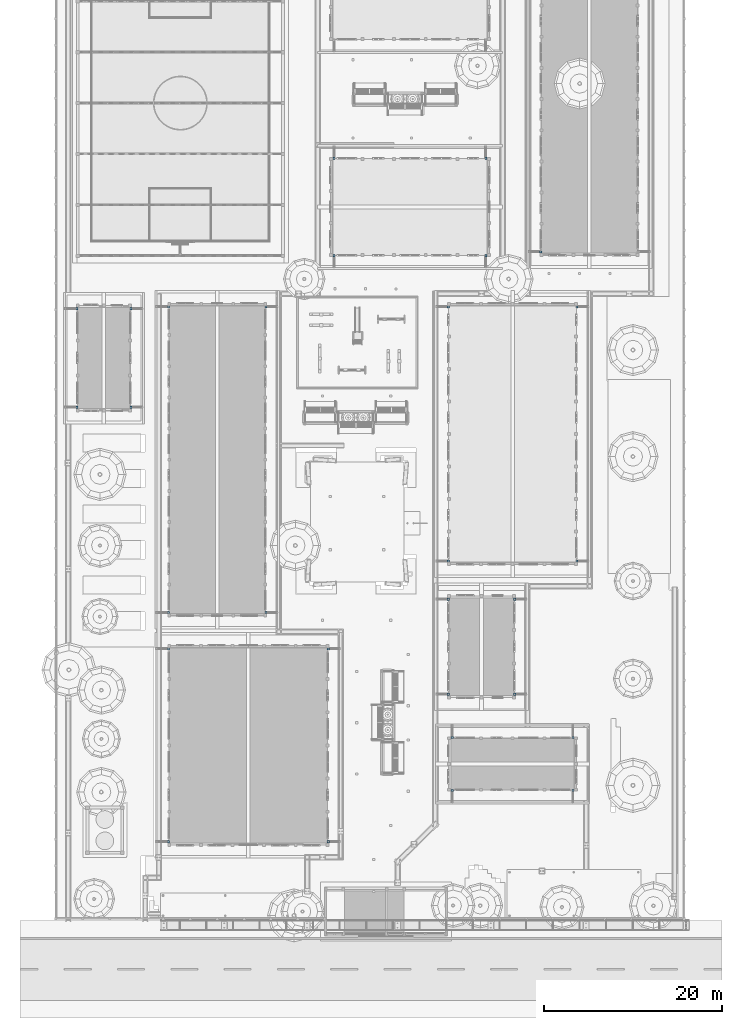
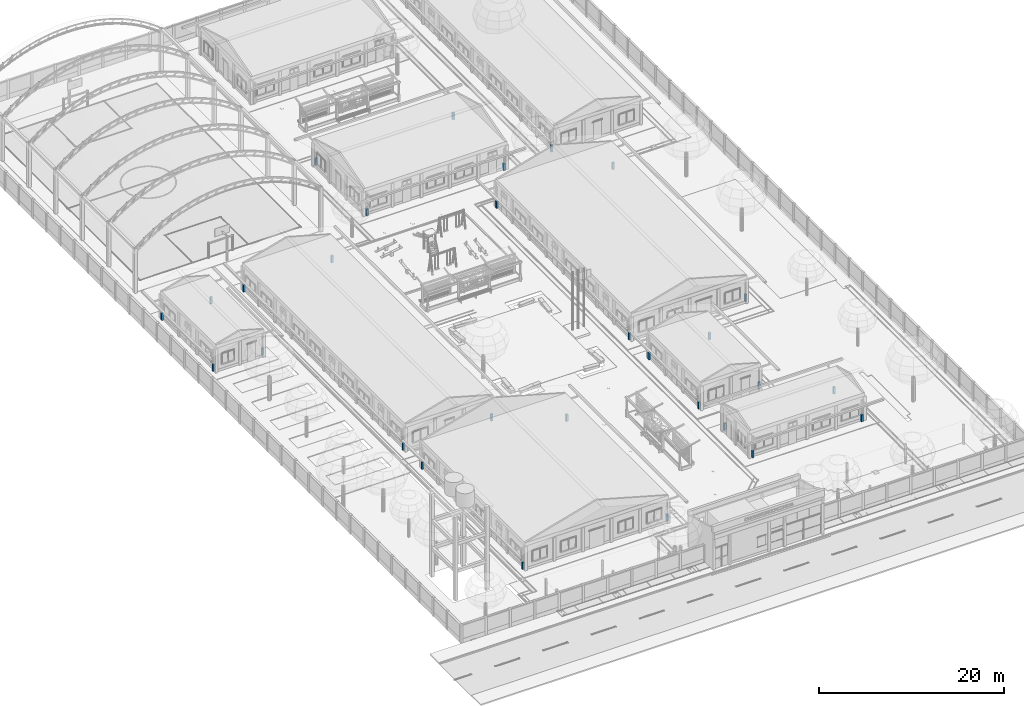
# One storey, part 13 of 177: 29 columns.
"""IFC4 building model written with IfcOpenShell, lengths in metres."""

import ifcopenshell
import ifcopenshell.guid

model = None  # the IFC model being written
_history = None  # IfcOwnerHistory: only IFC2X3 demands one
_inside = {}  # id of a spatial element -> (the spatial element, [elements in it])
_under = {}  # id of a project, library or spatial element -> (it, [spatial elements below it])
_declared = {}  # id of a project -> (the project, [libraries it declares])
_typed = {}  # id of a type object -> (the type object, [elements of that type])
_made_of = {}  # id of a material, layer set ... -> (it, [elements and type objects made of it])


def new_model(schema):
    """Start an empty IFC model of exactly this schema.

    Asked for "IFC4X3", IfcOpenShell would pick the latest addendum, in which some entities
    have other attributes; the version numbers below select the first issue.
    IFC2X3 requires an IfcOwnerHistory on every rooted entity: one is made here for all.
    """
    global model, _history
    if schema == "IFC4X3":
        model = ifcopenshell.file(schema_version=(4, 3, 0, 0))
    else:
        model = ifcopenshell.file(schema=schema)
    _inside.clear()
    _under.clear()
    _declared.clear()
    _typed.clear()
    _made_of.clear()
    _history = None
    if model.schema == "IFC2X3":
        org = make("IfcOrganization", Name="unknown")
        user = make(
            "IfcPersonAndOrganization",
            ThePerson=make("IfcPerson", FamilyName="unknown"),
            TheOrganization=org,
        )
        app = make(
            "IfcApplication",
            ApplicationDeveloper=org,
            Version="unknown",
            ApplicationFullName="unknown",
            ApplicationIdentifier="unknown",
        )
        _history = make(
            "IfcOwnerHistory",
            OwningUser=user,
            OwningApplication=app,
            ChangeAction="ADDED",
            CreationDate=0,
        )
    return model


def make(cls, **values):
    """One entity of the class cls with the attributes given. An attribute that is None is left unset."""
    return model.create_entity(
        cls, **{name: value for name, value in values.items() if value is not None}
    )


def rooted(cls, **values):
    """An entity with a GlobalId (a new one), such as an element, a storey or a relation."""
    return make(cls, GlobalId=ifcopenshell.guid.new(), OwnerHistory=_history, **values)


def si_unit(unit_type, name, prefix=None):
    """IfcSIUnit, for example si_unit("LENGTHUNIT", "METRE", prefix="MILLI")."""
    return make("IfcSIUnit", UnitType=unit_type, Prefix=prefix, Name=name)


def assignment(units):
    """IfcUnitAssignment: the units of a project."""
    return None if units is None else make("IfcUnitAssignment", Units=units)


def point(xyz):
    """IfcCartesianPoint."""
    return None if xyz is None else make("IfcCartesianPoint", Coordinates=xyz)


def direction(xyz):
    """IfcDirection."""
    return None if xyz is None else make("IfcDirection", DirectionRatios=xyz)


def frame(location, z_axis=None, x_axis=None):
    """IfcAxis2Placement3D, a coordinate frame: its origin and axes. An axis left out is left unset."""
    return make(
        "IfcAxis2Placement3D",
        Location=point(location),
        Axis=direction(z_axis),
        RefDirection=direction(x_axis),
    )


def origin():
    """The frame at (0, 0, 0) with its axes left unset."""
    return frame((0.0, 0.0, 0.0))


def origin_with_axes():
    """The frame at (0, 0, 0) with the z axis (0, 0, 1) and the x axis (1, 0, 0) written out."""
    return frame((0.0, 0.0, 0.0), z_axis=(0.0, 0.0, 1.0), x_axis=(1.0, 0.0, 0.0))


def place(relative_to, where):
    """IfcLocalPlacement: puts the frame where relative to a parent placement (None: the world)."""
    return make(
        "IfcLocalPlacement", PlacementRelTo=relative_to, RelativePlacement=where
    )


def context(
    kind, dimensions, precision=None, world=None, true_north=None, identifier=None
):
    """IfcGeometricRepresentationContext, for example the 3D "Model" context."""
    return make(
        "IfcGeometricRepresentationContext",
        ContextIdentifier=identifier,
        ContextType=kind,
        CoordinateSpaceDimension=dimensions,
        Precision=precision,
        WorldCoordinateSystem=world,
        TrueNorth=true_north,
    )


def subcontext(parent, identifier, kind, view, scale=None):
    """IfcGeometricRepresentationSubContext, for example "Body" below "Model"."""
    return make(
        "IfcGeometricRepresentationSubContext",
        ContextIdentifier=identifier,
        ContextType=kind,
        ParentContext=parent,
        TargetScale=scale,
        TargetView=view,
    )


def project(units=None, contexts=None):
    """IfcProject with its units and contexts."""
    return rooted(
        "IfcProject",
        Name="project",
        RepresentationContexts=contexts,
        UnitsInContext=assignment(units),
    )


def spatial(cls, under=None, at=None, **own):
    """A site, building, storey or space (cls), placed at a placement, below another one or the project."""
    s = rooted(cls, ObjectPlacement=at, **own)
    if under is not None:
        _under.setdefault(under.id(), (under, []))[1].append(s)
    return s


def point_list(points):
    """IfcCartesianPointList2D or 3D."""
    cls = (
        "IfcCartesianPointList2D" if len(points[0]) == 2 else "IfcCartesianPointList3D"
    )
    return make(cls, CoordList=points)


def triangles(points, corners, closed=None, point_numbers=None):
    """IfcTriangulatedFaceSet: each triangle names its three corners, points numbered from 1."""
    return make(
        "IfcTriangulatedFaceSet",
        Coordinates=point_list(points),
        Closed=closed,
        CoordIndex=corners,
        PnIndex=point_numbers,
    )


def shape(context_of_items, identifier, shape_type, items):
    """IfcShapeRepresentation: the items that make up one representation, for example the "Body"."""
    return make(
        "IfcShapeRepresentation",
        ContextOfItems=context_of_items,
        RepresentationIdentifier=identifier,
        RepresentationType=shape_type,
        Items=items,
    )


def made_of(thing, what):
    """Note that an element or type object is made of a material, layer set ...; save() writes the relation."""
    if what is not None:
        _made_of.setdefault(what.id(), (what, []))[1].append(thing)
    return thing


def element(
    cls,
    number,
    at=None,
    inside=None,
    cuts=None,
    type_object=None,
    material=None,
    context=None,
    identifier="Body",
    shape_type=None,
    held_by="IfcProductDefinitionShape",
    body=None,
    shapes=None,
    **own,
):
    """One element of the class cls, such as IfcWall. Its Tag is "e" and its number.

    at: its placement. inside: the storey or other place that contains it. cuts: it is an
    opening in that element (IfcRelVoidsElement). A single representation is given by context,
    identifier, shape_type and body (its items); several are given by shapes. held_by: the class
    of the entity that holds the representations. save() writes the other relations.
    """
    e = rooted(cls, Tag="e%d" % number, ObjectPlacement=at, **own)
    if body is not None:
        shapes = [shape(context, identifier, shape_type, body)]
    if shapes is not None:
        e.Representation = make(held_by, Representations=shapes)
    if inside is not None:
        _inside.setdefault(inside.id(), (inside, []))[1].append(e)
    if cuts is not None:
        rooted(
            "IfcRelVoidsElement", RelatingBuildingElement=cuts, RelatedOpeningElement=e
        )
    if type_object is not None:
        _typed.setdefault(type_object.id(), (type_object, []))[1].append(e)
    return made_of(e, material)


def aggregate(whole, parts):
    """IfcRelAggregates: a whole, such as a stair, and the parts it consists of."""
    return rooted("IfcRelAggregates", RelatingObject=whole, RelatedObjects=parts)


def save(model, path):
    """Write the relations noted so far, then the file.

    IfcRelAggregates (storeys below a building ...), IfcRelContainedInSpatialStructure (elements
    in a storey), IfcRelDefinesByType, IfcRelAssociatesMaterial and IfcRelDeclares: one each for
    every whole, place, type object, material and project.
    """
    for whole, parts in _under.values():
        aggregate(whole, parts)
    for where, things in _inside.values():
        rooted(
            "IfcRelContainedInSpatialStructure",
            RelatedElements=things,
            RelatingStructure=where,
        )
    for kind, things in _typed.values():
        rooted("IfcRelDefinesByType", RelatedObjects=things, RelatingType=kind)
    for what, things in _made_of.values():
        rooted("IfcRelAssociatesMaterial", RelatedObjects=things, RelatingMaterial=what)
    for by, libraries in _declared.values():
        rooted("IfcRelDeclares", RelatingContext=by, RelatedDefinitions=libraries)
    model.write(path)


model = new_model("IFC4")

# Units and contexts
model_context = context("Model", 3, precision=1e-05, world=origin_with_axes())
body_context = subcontext(model_context, "Body", "Model", "MODEL_VIEW")
ifc_project = project(units=[si_unit("LENGTHUNIT", "METRE"), si_unit("AREAUNIT", "SQUARE_METRE"), si_unit("VOLUMEUNIT", "CUBIC_METRE"), si_unit("PLANEANGLEUNIT", "RADIAN")], contexts=[model_context])

# Site, building, storey
site_placement = place(None, origin_with_axes())
site = spatial("IfcSite", under=ifc_project, at=site_placement, Name="Predio Los Mangos - Morales, San Martín", CompositionType="ELEMENT")
building_placement = place(site_placement, origin())
building = spatial("IfcBuilding", under=site, at=building_placement, Name="Hogar de Refugio Temporal", CompositionType="ELEMENT")
storey_placement = place(building_placement, origin())
storey = spatial("IfcBuildingStorey", under=building, at=storey_placement, Name="NIVEL 1 (NPT +0.00)", CompositionType="ELEMENT", Elevation=0.0)

# Columns
column_1_placement = place(storey_placement, origin())
element("IfcColumn", 1, at=column_1_placement, inside=storey, Name="falsa_columna", ObjectType="Falsa columna", PredefinedType="COLUMN", context=body_context, shape_type="Tessellation", body=[
    triangles([(13.585, 26.525, 0.15), (13.835, 26.525, 0.15), (13.835, 26.775, 0.15), (13.585, 26.775, 0.15), (13.585, 26.525, 1.05), (13.835, 26.525, 1.05), (13.835, 26.775, 1.05), (13.585, 26.775, 1.05)], [[1, 4, 3], [1, 3, 2], [5, 6, 7], [5, 7, 8], [1, 2, 6], [1, 6, 5], [2, 3, 7], [2, 7, 6], [3, 4, 8], [3, 8, 7], [4, 1, 5], [4, 5, 8]]),
])
column_2_placement = place(storey_placement, origin())
element("IfcColumn", 2, at=column_2_placement, inside=storey, Name="falsa_columna", ObjectType="Falsa columna", PredefinedType="COLUMN", context=body_context, shape_type="Tessellation", body=[
    triangles([(13.585, 48.225, 0.15), (13.835, 48.225, 0.15), (13.835, 48.475, 0.15), (13.585, 48.475, 0.15), (13.585, 48.225, 1.05), (13.835, 48.225, 1.05), (13.835, 48.475, 1.05), (13.585, 48.475, 1.05)], [[1, 4, 3], [1, 3, 2], [5, 6, 7], [5, 7, 8], [1, 2, 6], [1, 6, 5], [2, 3, 7], [2, 7, 6], [3, 4, 8], [3, 8, 7], [4, 1, 5], [4, 5, 8]]),
])
column_3_placement = place(storey_placement, origin())
element("IfcColumn", 3, at=column_3_placement, inside=storey, Name="falsa_columna", ObjectType="Falsa columna", PredefinedType="COLUMN", context=body_context, shape_type="Tessellation", body=[
    triangles([(31.565, 26.525, 0.15), (31.815, 26.525, 0.15), (31.815, 26.775, 0.15), (31.565, 26.775, 0.15), (31.565, 26.525, 1.05), (31.815, 26.525, 1.05), (31.815, 26.775, 1.05), (31.565, 26.775, 1.05)], [[1, 4, 3], [1, 3, 2], [5, 6, 7], [5, 7, 8], [1, 2, 6], [1, 6, 5], [2, 3, 7], [2, 7, 6], [3, 4, 8], [3, 8, 7], [4, 1, 5], [4, 5, 8]]),
])
column_4_placement = place(storey_placement, origin())
element("IfcColumn", 4, at=column_4_placement, inside=storey, Name="falsa_columna", ObjectType="Falsa columna", PredefinedType="COLUMN", context=body_context, shape_type="Tessellation", body=[
    triangles([(31.565, 48.225, 0.15), (31.815, 48.225, 0.15), (31.815, 48.475, 0.15), (31.565, 48.475, 0.15), (31.565, 48.225, 1.05), (31.815, 48.225, 1.05), (31.815, 48.475, 1.05), (31.565, 48.475, 1.05)], [[1, 4, 3], [1, 3, 2], [5, 6, 7], [5, 7, 8], [1, 2, 6], [1, 6, 5], [2, 3, 7], [2, 7, 6], [3, 4, 8], [3, 8, 7], [4, 1, 5], [4, 5, 8]]),
])
column_5_placement = place(storey_placement, origin())
element("IfcColumn", 5, at=column_5_placement, inside=storey, Name="falsa_columna", ObjectType="Falsa columna", PredefinedType="COLUMN", context=body_context, shape_type="Tessellation", body=[
    triangles([(45.085, 43.125, 0.15), (45.335, 43.125, 0.15), (45.335, 43.375, 0.15), (45.085, 43.375, 0.15), (45.085, 43.125, 1.05), (45.335, 43.125, 1.05), (45.335, 43.375, 1.05), (45.085, 43.375, 1.05)], [[1, 4, 3], [1, 3, 2], [5, 6, 7], [5, 7, 8], [1, 2, 6], [1, 6, 5], [2, 3, 7], [2, 7, 6], [3, 4, 8], [3, 8, 7], [4, 1, 5], [4, 5, 8]]),
])
column_6_placement = place(storey_placement, origin())
element("IfcColumn", 6, at=column_6_placement, inside=storey, Name="falsa_columna", ObjectType="Falsa columna", PredefinedType="COLUMN", context=body_context, shape_type="Tessellation", body=[
    triangles([(45.085, 53.825, 0.15), (45.335, 53.825, 0.15), (45.335, 54.075, 0.15), (45.085, 54.075, 0.15), (45.085, 53.825, 1.05), (45.335, 53.825, 1.05), (45.335, 54.075, 1.05), (45.085, 54.075, 1.05)], [[1, 4, 3], [1, 3, 2], [5, 6, 7], [5, 7, 8], [1, 2, 6], [1, 6, 5], [2, 3, 7], [2, 7, 6], [3, 4, 8], [3, 8, 7], [4, 1, 5], [4, 5, 8]]),
])
column_7_placement = place(storey_placement, origin())
element("IfcColumn", 7, at=column_7_placement, inside=storey, Name="falsa_columna", ObjectType="Falsa columna", PredefinedType="COLUMN", context=body_context, shape_type="Tessellation", body=[
    triangles([(52.565, 43.125, 0.15), (52.815, 43.125, 0.15), (52.815, 43.375, 0.15), (52.565, 43.375, 0.15), (52.565, 43.125, 1.05), (52.815, 43.125, 1.05), (52.815, 43.375, 1.05), (52.565, 43.375, 1.05)], [[1, 4, 3], [1, 3, 2], [5, 6, 7], [5, 7, 8], [1, 2, 6], [1, 6, 5], [2, 3, 7], [2, 7, 6], [3, 4, 8], [3, 8, 7], [4, 1, 5], [4, 5, 8]]),
])
column_8_placement = place(storey_placement, origin())
element("IfcColumn", 8, at=column_8_placement, inside=storey, Name="falsa_columna", ObjectType="Falsa columna", PredefinedType="COLUMN", context=body_context, shape_type="Tessellation", body=[
    triangles([(52.565, 53.825, 0.15), (52.815, 53.825, 0.15), (52.815, 54.075, 0.15), (52.565, 54.075, 0.15), (52.565, 53.825, 1.05), (52.815, 53.825, 1.05), (52.815, 54.075, 1.05), (52.565, 54.075, 1.05)], [[1, 4, 3], [1, 3, 2], [5, 6, 7], [5, 7, 8], [1, 2, 6], [1, 6, 5], [2, 3, 7], [2, 7, 6], [3, 4, 8], [3, 8, 7], [4, 1, 5], [4, 5, 8]]),
])
column_9_placement = place(storey_placement, origin())
element("IfcColumn", 9, at=column_9_placement, inside=storey, Name="falsa_columna", ObjectType="Falsa columna", PredefinedType="COLUMN", context=body_context, shape_type="Tessellation", body=[
    triangles([(45.525, 32.285, 0.15), (45.775, 32.285, 0.15), (45.775, 32.535, 0.15), (45.525, 32.535, 0.15), (45.525, 32.285, 1.05), (45.775, 32.285, 1.05), (45.775, 32.535, 1.05), (45.525, 32.535, 1.05)], [[1, 4, 3], [1, 3, 2], [5, 6, 7], [5, 7, 8], [1, 2, 6], [1, 6, 5], [2, 3, 7], [2, 7, 6], [3, 4, 8], [3, 8, 7], [4, 1, 5], [4, 5, 8]]),
])
column_10_placement = place(storey_placement, origin())
element("IfcColumn", 10, at=column_10_placement, inside=storey, Name="falsa_columna", ObjectType="Falsa columna", PredefinedType="COLUMN", context=body_context, shape_type="Tessellation", body=[
    triangles([(59.125, 32.285, 0.15), (59.375, 32.285, 0.15), (59.375, 32.535, 0.15), (59.125, 32.535, 0.15), (59.125, 32.285, 1.05), (59.375, 32.285, 1.05), (59.375, 32.535, 1.05), (59.125, 32.535, 1.05)], [[1, 4, 3], [1, 3, 2], [5, 6, 7], [5, 7, 8], [1, 2, 6], [1, 6, 5], [2, 3, 7], [2, 7, 6], [3, 4, 8], [3, 8, 7], [4, 1, 5], [4, 5, 8]]),
])
column_11_placement = place(storey_placement, origin())
element("IfcColumn", 11, at=column_11_placement, inside=storey, Name="falsa_columna", ObjectType="Falsa columna", PredefinedType="COLUMN", context=body_context, shape_type="Tessellation", body=[
    triangles([(45.525, 38.265, 0.15), (45.775, 38.265, 0.15), (45.775, 38.515, 0.15), (45.525, 38.515, 0.15), (45.525, 38.265, 1.05), (45.775, 38.265, 1.05), (45.775, 38.515, 1.05), (45.525, 38.515, 1.05)], [[1, 4, 3], [1, 3, 2], [5, 6, 7], [5, 7, 8], [1, 2, 6], [1, 6, 5], [2, 3, 7], [2, 7, 6], [3, 4, 8], [3, 8, 7], [4, 1, 5], [4, 5, 8]]),
])
column_12_placement = place(storey_placement, origin())
element("IfcColumn", 12, at=column_12_placement, inside=storey, Name="falsa_columna", ObjectType="Falsa columna", PredefinedType="COLUMN", context=body_context, shape_type="Tessellation", body=[
    triangles([(59.125, 38.265, 0.15), (59.375, 38.265, 0.15), (59.375, 38.515, 0.15), (59.125, 38.515, 0.15), (59.125, 38.265, 1.05), (59.375, 38.265, 1.05), (59.375, 38.515, 1.05), (59.125, 38.515, 1.05)], [[1, 4, 3], [1, 3, 2], [5, 6, 7], [5, 7, 8], [1, 2, 6], [1, 6, 5], [2, 3, 7], [2, 7, 6], [3, 4, 8], [3, 8, 7], [4, 1, 5], [4, 5, 8]]),
])
column_13_placement = place(storey_placement, origin())
element("IfcColumn", 13, at=column_13_placement, inside=storey, Name="falsa_columna", ObjectType="Falsa columna", PredefinedType="COLUMN", context=body_context, shape_type="Tessellation", body=[
    triangles([(13.585, 52.325, 0.15), (13.835, 52.325, 0.15), (13.835, 52.575, 0.15), (13.585, 52.575, 0.15), (13.585, 52.325, 1.05), (13.835, 52.325, 1.05), (13.835, 52.575, 1.05), (13.585, 52.575, 1.05)], [[1, 4, 3], [1, 3, 2], [5, 6, 7], [5, 7, 8], [1, 2, 6], [1, 6, 5], [2, 3, 7], [2, 7, 6], [3, 4, 8], [3, 8, 7], [4, 1, 5], [4, 5, 8]]),
])
column_14_placement = place(storey_placement, origin())
element("IfcColumn", 14, at=column_14_placement, inside=storey, Name="falsa_columna", ObjectType="Falsa columna", PredefinedType="COLUMN", context=body_context, shape_type="Tessellation", body=[
    triangles([(13.585, 86.725, 0.15), (13.835, 86.725, 0.15), (13.835, 86.975, 0.15), (13.585, 86.975, 0.15), (13.585, 86.725, 1.05), (13.835, 86.725, 1.05), (13.835, 86.975, 1.05), (13.585, 86.975, 1.05)], [[1, 4, 3], [1, 3, 2], [5, 6, 7], [5, 7, 8], [1, 2, 6], [1, 6, 5], [2, 3, 7], [2, 7, 6], [3, 4, 8], [3, 8, 7], [4, 1, 5], [4, 5, 8]]),
])
column_15_placement = place(storey_placement, origin())
element("IfcColumn", 15, at=column_15_placement, inside=storey, Name="falsa_columna", ObjectType="Falsa columna", PredefinedType="COLUMN", context=body_context, shape_type="Tessellation", body=[
    triangles([(24.565, 52.325, 0.15), (24.815, 52.325, 0.15), (24.815, 52.575, 0.15), (24.565, 52.575, 0.15), (24.565, 52.325, 1.05), (24.815, 52.325, 1.05), (24.815, 52.575, 1.05), (24.565, 52.575, 1.05)], [[1, 4, 3], [1, 3, 2], [5, 6, 7], [5, 7, 8], [1, 2, 6], [1, 6, 5], [2, 3, 7], [2, 7, 6], [3, 4, 8], [3, 8, 7], [4, 1, 5], [4, 5, 8]]),
])
column_16_placement = place(storey_placement, origin())
element("IfcColumn", 16, at=column_16_placement, inside=storey, Name="falsa_columna", ObjectType="Falsa columna", PredefinedType="COLUMN", context=body_context, shape_type="Tessellation", body=[
    triangles([(24.565, 86.725, 0.15), (24.815, 86.725, 0.15), (24.815, 86.975, 0.15), (24.565, 86.975, 0.15), (24.565, 86.725, 1.05), (24.815, 86.725, 1.05), (24.815, 86.975, 1.05), (24.565, 86.975, 1.05)], [[1, 4, 3], [1, 3, 2], [5, 6, 7], [5, 7, 8], [1, 2, 6], [1, 6, 5], [2, 3, 7], [2, 7, 6], [3, 4, 8], [3, 8, 7], [4, 1, 5], [4, 5, 8]]),
])
column_17_placement = place(storey_placement, origin())
element("IfcColumn", 17, at=column_17_placement, inside=storey, Name="falsa_columna", ObjectType="Falsa columna", PredefinedType="COLUMN", context=body_context, shape_type="Tessellation", body=[
    triangles([(45.085, 58.125, 0.15), (45.335, 58.125, 0.15), (45.335, 58.375, 0.15), (45.085, 58.375, 0.15), (45.085, 58.125, 1.05), (45.335, 58.125, 1.05), (45.335, 58.375, 1.05), (45.085, 58.375, 1.05)], [[1, 4, 3], [1, 3, 2], [5, 6, 7], [5, 7, 8], [1, 2, 6], [1, 6, 5], [2, 3, 7], [2, 7, 6], [3, 4, 8], [3, 8, 7], [4, 1, 5], [4, 5, 8]]),
])
column_18_placement = place(storey_placement, origin())
element("IfcColumn", 18, at=column_18_placement, inside=storey, Name="falsa_columna", ObjectType="Falsa columna", PredefinedType="COLUMN", context=body_context, shape_type="Tessellation", body=[
    triangles([(45.085, 86.725, 0.15), (45.335, 86.725, 0.15), (45.335, 86.975, 0.15), (45.085, 86.975, 0.15), (45.085, 86.725, 1.05), (45.335, 86.725, 1.05), (45.335, 86.975, 1.05), (45.085, 86.975, 1.05)], [[1, 4, 3], [1, 3, 2], [5, 6, 7], [5, 7, 8], [1, 2, 6], [1, 6, 5], [2, 3, 7], [2, 7, 6], [3, 4, 8], [3, 8, 7], [4, 1, 5], [4, 5, 8]]),
])
column_19_placement = place(storey_placement, origin())
element("IfcColumn", 19, at=column_19_placement, inside=storey, Name="falsa_columna", ObjectType="Falsa columna", PredefinedType="COLUMN", context=body_context, shape_type="Tessellation", body=[
    triangles([(59.565, 58.125, 0.15), (59.815, 58.125, 0.15), (59.815, 58.375, 0.15), (59.565, 58.375, 0.15), (59.565, 58.125, 1.05), (59.815, 58.125, 1.05), (59.815, 58.375, 1.05), (59.565, 58.375, 1.05)], [[1, 4, 3], [1, 3, 2], [5, 6, 7], [5, 7, 8], [1, 2, 6], [1, 6, 5], [2, 3, 7], [2, 7, 6], [3, 4, 8], [3, 8, 7], [4, 1, 5], [4, 5, 8]]),
])
column_20_placement = place(storey_placement, origin())
element("IfcColumn", 20, at=column_20_placement, inside=storey, Name="falsa_columna", ObjectType="Falsa columna", PredefinedType="COLUMN", context=body_context, shape_type="Tessellation", body=[
    triangles([(59.565, 86.725, 0.15), (59.815, 86.725, 0.15), (59.815, 86.975, 0.15), (59.565, 86.975, 0.15), (59.565, 86.725, 1.05), (59.815, 86.725, 1.05), (59.815, 86.975, 1.05), (59.565, 86.975, 1.05)], [[1, 4, 3], [1, 3, 2], [5, 6, 7], [5, 7, 8], [1, 2, 6], [1, 6, 5], [2, 3, 7], [2, 7, 6], [3, 4, 8], [3, 8, 7], [4, 1, 5], [4, 5, 8]]),
])
column_21_placement = place(storey_placement, origin())
element("IfcColumn", 21, at=column_21_placement, inside=storey, Name="falsa_columna", ObjectType="Falsa columna", PredefinedType="COLUMN", context=body_context, shape_type="Tessellation", body=[
    triangles([(32.225, 92.485, 0.15), (32.475, 92.485, 0.15), (32.475, 92.735, 0.15), (32.225, 92.735, 0.15), (32.225, 92.485, 1.05), (32.475, 92.485, 1.05), (32.475, 92.735, 1.05), (32.225, 92.735, 1.05)], [[1, 4, 3], [1, 3, 2], [5, 6, 7], [5, 7, 8], [1, 2, 6], [1, 6, 5], [2, 3, 7], [2, 7, 6], [3, 4, 8], [3, 8, 7], [4, 1, 5], [4, 5, 8]]),
])
column_22_placement = place(storey_placement, origin())
element("IfcColumn", 22, at=column_22_placement, inside=storey, Name="falsa_columna", ObjectType="Falsa columna", PredefinedType="COLUMN", context=body_context, shape_type="Tessellation", body=[
    triangles([(49.325, 92.485, 0.15), (49.575, 92.485, 0.15), (49.575, 92.735, 0.15), (49.325, 92.735, 0.15), (49.325, 92.485, 1.05), (49.575, 92.485, 1.05), (49.575, 92.735, 1.05), (49.325, 92.735, 1.05)], [[1, 4, 3], [1, 3, 2], [5, 6, 7], [5, 7, 8], [1, 2, 6], [1, 6, 5], [2, 3, 7], [2, 7, 6], [3, 4, 8], [3, 8, 7], [4, 1, 5], [4, 5, 8]]),
])
column_23_placement = place(storey_placement, origin())
element("IfcColumn", 23, at=column_23_placement, inside=storey, Name="falsa_columna", ObjectType="Falsa columna", PredefinedType="COLUMN", context=body_context, shape_type="Tessellation", body=[
    triangles([(32.225, 103.465, 0.15), (32.475, 103.465, 0.15), (32.475, 103.715, 0.15), (32.225, 103.715, 0.15), (32.225, 103.465, 1.05), (32.475, 103.465, 1.05), (32.475, 103.715, 1.05), (32.225, 103.715, 1.05)], [[1, 4, 3], [1, 3, 2], [5, 6, 7], [5, 7, 8], [1, 2, 6], [1, 6, 5], [2, 3, 7], [2, 7, 6], [3, 4, 8], [3, 8, 7], [4, 1, 5], [4, 5, 8]]),
])
column_24_placement = place(storey_placement, origin())
element("IfcColumn", 24, at=column_24_placement, inside=storey, Name="falsa_columna", ObjectType="Falsa columna", PredefinedType="COLUMN", context=body_context, shape_type="Tessellation", body=[
    triangles([(49.325, 103.465, 0.15), (49.575, 103.465, 0.15), (49.575, 103.715, 0.15), (49.325, 103.715, 0.15), (49.325, 103.465, 1.05), (49.575, 103.465, 1.05), (49.575, 103.715, 1.05), (49.325, 103.715, 1.05)], [[1, 4, 3], [1, 3, 2], [5, 6, 7], [5, 7, 8], [1, 2, 6], [1, 6, 5], [2, 3, 7], [2, 7, 6], [3, 4, 8], [3, 8, 7], [4, 1, 5], [4, 5, 8]]),
])
column_25_placement = place(storey_placement, origin())
element("IfcColumn", 25, at=column_25_placement, inside=storey, Name="falsa_columna", ObjectType="Falsa columna", PredefinedType="COLUMN", context=body_context, shape_type="Tessellation", body=[
    triangles([(55.485, 92.925, 0.15), (55.735, 92.925, 0.15), (55.735, 93.175, 0.15), (55.485, 93.175, 0.15), (55.485, 92.925, 1.05), (55.735, 92.925, 1.05), (55.735, 93.175, 1.05), (55.485, 93.175, 1.05)], [[1, 4, 3], [1, 3, 2], [5, 6, 7], [5, 7, 8], [1, 2, 6], [1, 6, 5], [2, 3, 7], [2, 7, 6], [3, 4, 8], [3, 8, 7], [4, 1, 5], [4, 5, 8]]),
])
column_26_placement = place(storey_placement, origin())
element("IfcColumn", 26, at=column_26_placement, inside=storey, Name="falsa_columna", ObjectType="Falsa columna", PredefinedType="COLUMN", context=body_context, shape_type="Tessellation", body=[
    triangles([(3.285, 75.425, 0.15), (3.535, 75.425, 0.15), (3.535, 75.675, 0.15), (3.285, 75.675, 0.15), (3.285, 75.425, 1.05), (3.535, 75.425, 1.05), (3.535, 75.675, 1.05), (3.285, 75.675, 1.05)], [[1, 4, 3], [1, 3, 2], [5, 6, 7], [5, 7, 8], [1, 2, 6], [1, 6, 5], [2, 3, 7], [2, 7, 6], [3, 4, 8], [3, 8, 7], [4, 1, 5], [4, 5, 8]]),
])
column_27_placement = place(storey_placement, origin())
element("IfcColumn", 27, at=column_27_placement, inside=storey, Name="falsa_columna", ObjectType="Falsa columna", PredefinedType="COLUMN", context=body_context, shape_type="Tessellation", body=[
    triangles([(3.285, 86.525, 0.15), (3.535, 86.525, 0.15), (3.535, 86.775, 0.15), (3.285, 86.775, 0.15), (3.285, 86.525, 1.05), (3.535, 86.525, 1.05), (3.535, 86.775, 1.05), (3.285, 86.775, 1.05)], [[1, 4, 3], [1, 3, 2], [5, 6, 7], [5, 7, 8], [1, 2, 6], [1, 6, 5], [2, 3, 7], [2, 7, 6], [3, 4, 8], [3, 8, 7], [4, 1, 5], [4, 5, 8]]),
])
column_28_placement = place(storey_placement, origin())
element("IfcColumn", 28, at=column_28_placement, inside=storey, Name="falsa_columna", ObjectType="Falsa columna", PredefinedType="COLUMN", context=body_context, shape_type="Tessellation", body=[
    triangles([(9.365, 75.425, 0.15), (9.615, 75.425, 0.15), (9.615, 75.675, 0.15), (9.365, 75.675, 0.15), (9.365, 75.425, 1.05), (9.615, 75.425, 1.05), (9.615, 75.675, 1.05), (9.365, 75.675, 1.05)], [[1, 4, 3], [1, 3, 2], [5, 6, 7], [5, 7, 8], [1, 2, 6], [1, 6, 5], [2, 3, 7], [2, 7, 6], [3, 4, 8], [3, 8, 7], [4, 1, 5], [4, 5, 8]]),
])
column_29_placement = place(storey_placement, origin())
element("IfcColumn", 29, at=column_29_placement, inside=storey, Name="falsa_columna", ObjectType="Falsa columna", PredefinedType="COLUMN", context=body_context, shape_type="Tessellation", body=[
    triangles([(9.365, 86.525, 0.15), (9.615, 86.525, 0.15), (9.615, 86.775, 0.15), (9.365, 86.775, 0.15), (9.365, 86.525, 1.05), (9.615, 86.525, 1.05), (9.615, 86.775, 1.05), (9.365, 86.775, 1.05)], [[1, 4, 3], [1, 3, 2], [5, 6, 7], [5, 7, 8], [1, 2, 6], [1, 6, 5], [2, 3, 7], [2, 7, 6], [3, 4, 8], [3, 8, 7], [4, 1, 5], [4, 5, 8]]),
])

save(model, "model.ifc")
